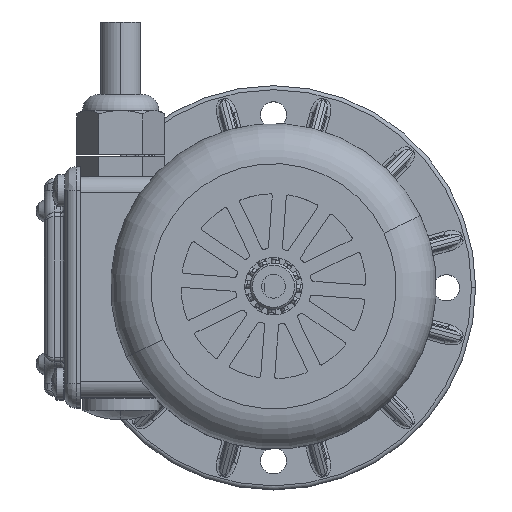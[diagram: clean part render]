
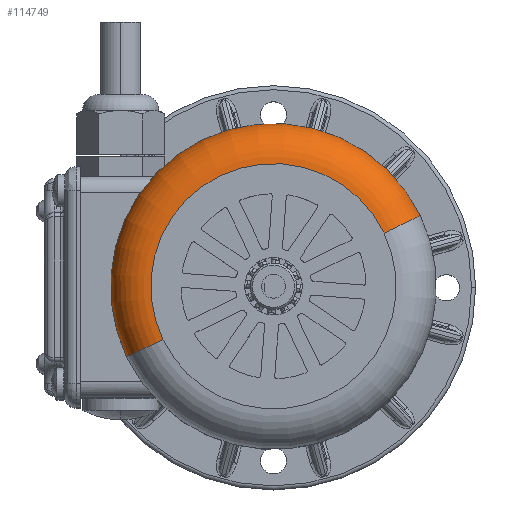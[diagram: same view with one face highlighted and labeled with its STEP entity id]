
A CAD part, top view. The second image highlights one B-rep face of the part: STEP entity #114749.
In plain terms, the highlighted toroidal (fillet/blend) face has major radius 30.5 mm and minor radius 10 mm.
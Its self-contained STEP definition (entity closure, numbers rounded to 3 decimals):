
#19822=CARTESIAN_POINT('',(-36.487,-17.577,152.85));
#19823=VERTEX_POINT('',#19822);
#19832=CARTESIAN_POINT('',(36.487,17.577,152.85));
#19833=VERTEX_POINT('',#19832);
#19834=CARTESIAN_POINT('',(0.,0.,152.85));
#19835=DIRECTION('',(0.,0.,1.0));
#19836=DIRECTION('',(-0.901,-0.434,0.));
#19837=AXIS2_PLACEMENT_3D('',#19834,#19835,#19836);
#19838=CIRCLE('',#19837,40.5);
#19839=EDGE_CURVE('',#19833,#19823,#19838,.T.);
#19864=CARTESIAN_POINT('',(-27.478,-13.237,162.85));
#19865=VERTEX_POINT('',#19864);
#19866=CARTESIAN_POINT('',(-27.478,-13.237,152.85));
#19867=DIRECTION('',(-0.434,0.901,0.));
#19868=DIRECTION('',(-0.901,-0.434,0.));
#19869=AXIS2_PLACEMENT_3D('',#19866,#19867,#19868);
#19870=CIRCLE('',#19869,10.0);
#19871=EDGE_CURVE('',#19823,#19865,#19870,.T.);
#19880=CARTESIAN_POINT('',(27.478,13.237,162.85));
#19881=VERTEX_POINT('',#19880);
#19882=CARTESIAN_POINT('',(27.478,13.237,152.85));
#19883=DIRECTION('',(-0.434,0.901,0.));
#19884=DIRECTION('',(0.901,0.434,0.));
#19885=AXIS2_PLACEMENT_3D('',#19882,#19883,#19884);
#19886=CIRCLE('',#19885,10.0);
#19887=EDGE_CURVE('',#19881,#19833,#19886,.T.);
#114732=CARTESIAN_POINT('',(0.,0.,152.85));
#114733=DIRECTION('',(0.,0.,1.0));
#114734=DIRECTION('',(-0.901,-0.434,0.));
#114735=AXIS2_PLACEMENT_3D('',#114732,#114733,#114734);
#114736=TOROIDAL_SURFACE('',#114735,30.5,10.0);
#114737=ORIENTED_EDGE('',*,*,#19871,.T.);
#114738=CARTESIAN_POINT('',(0.,0.,162.85));
#114739=DIRECTION('',(0.,0.,-1.));
#114740=DIRECTION('',(-0.901,-0.434,0.));
#114741=AXIS2_PLACEMENT_3D('',#114738,#114739,#114740);
#114742=CIRCLE('',#114741,30.5);
#114743=EDGE_CURVE('',#19865,#19881,#114742,.T.);
#114744=ORIENTED_EDGE('',*,*,#114743,.T.);
#114745=ORIENTED_EDGE('',*,*,#19887,.T.);
#114746=ORIENTED_EDGE('',*,*,#19839,.T.);
#114747=EDGE_LOOP('',(#114737,#114744,#114745,#114746));
#114748=FACE_OUTER_BOUND('',#114747,.T.);
#114749=ADVANCED_FACE('',(#114748),#114736,.T.);
